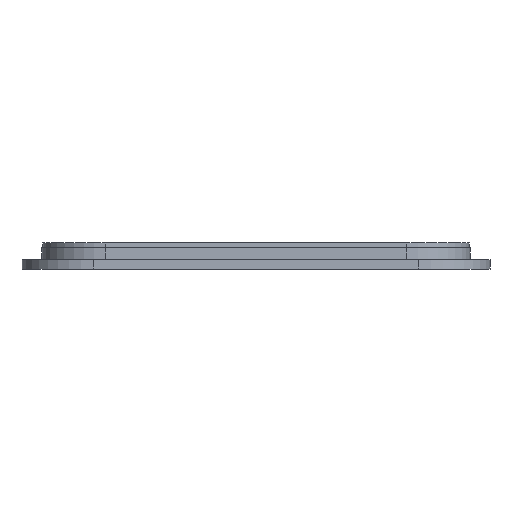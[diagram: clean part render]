
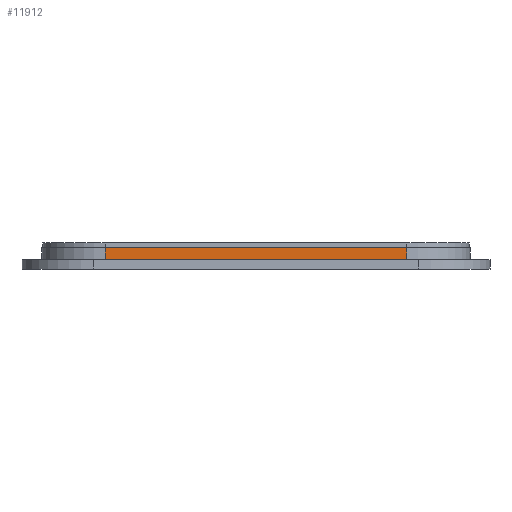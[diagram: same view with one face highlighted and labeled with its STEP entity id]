
A CAD part, front view. The second image highlights one B-rep face of the part: STEP entity #11912.
In plain terms, the highlighted planar face has unit normal (0, -1, 0).
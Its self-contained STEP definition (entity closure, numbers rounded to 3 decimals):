
#112 = PLANE('',#113);
#113 = AXIS2_PLACEMENT_3D('',#114,#115,#116);
#114 = CARTESIAN_POINT('',(-27.,-10.,13.));
#115 = DIRECTION('',(0.,0.,1.));
#116 = DIRECTION('',(1.,0.,-0.));
#140 = CYLINDRICAL_SURFACE('',#141,8.);
#141 = AXIS2_PLACEMENT_3D('',#142,#143,#144);
#142 = CARTESIAN_POINT('',(-19.,-2.,11.5));
#143 = DIRECTION('',(0.,0.,1.));
#144 = DIRECTION('',(-1.,-0.,0.));
#168 = PLANE('',#169);
#169 = AXIS2_PLACEMENT_3D('',#170,#171,#172);
#170 = CARTESIAN_POINT('',(-29.5,-12.5,11.5));
#171 = DIRECTION('',(0.,0.,1.));
#172 = DIRECTION('',(1.,0.,-0.));
#211 = VERTEX_POINT('',#212);
#212 = CARTESIAN_POINT('',(-19.,-10.,13.));
#234 = EDGE_CURVE('',#211,#235,#237,.T.);
#235 = VERTEX_POINT('',#236);
#236 = CARTESIAN_POINT('',(19.,-10.,13.));
#237 = SURFACE_CURVE('',#238,(#242,#249),.PCURVE_S1.);
#238 = LINE('',#239,#240);
#239 = CARTESIAN_POINT('',(-27.,-10.,13.));
#240 = VECTOR('',#241,1.);
#241 = DIRECTION('',(1.,0.,0.));
#242 = PCURVE('',#112,#243);
#243 = DEFINITIONAL_REPRESENTATION('',(#244),#248);
#244 = LINE('',#245,#246);
#245 = CARTESIAN_POINT('',(0.,0.));
#246 = VECTOR('',#247,1.);
#247 = DIRECTION('',(1.,0.));
#248 = ( GEOMETRIC_REPRESENTATION_CONTEXT(2) 
PARAMETRIC_REPRESENTATION_CONTEXT() REPRESENTATION_CONTEXT('2D SPACE',''
  ) );
#249 = PCURVE('',#250,#255);
#250 = PLANE('',#251);
#251 = AXIS2_PLACEMENT_3D('',#252,#253,#254);
#252 = CARTESIAN_POINT('',(-27.,-10.,11.5));
#253 = DIRECTION('',(0.,1.,0.));
#254 = DIRECTION('',(0.,-0.,1.));
#255 = DEFINITIONAL_REPRESENTATION('',(#256),#260);
#256 = LINE('',#257,#258);
#257 = CARTESIAN_POINT('',(1.5,0.));
#258 = VECTOR('',#259,1.);
#259 = DIRECTION('',(0.,1.));
#260 = ( GEOMETRIC_REPRESENTATION_CONTEXT(2) 
PARAMETRIC_REPRESENTATION_CONTEXT() REPRESENTATION_CONTEXT('2D SPACE',''
  ) );
#283 = CYLINDRICAL_SURFACE('',#284,8.);
#284 = AXIS2_PLACEMENT_3D('',#285,#286,#287);
#285 = CARTESIAN_POINT('',(19.,-2.,11.5));
#286 = DIRECTION('',(0.,0.,1.));
#287 = DIRECTION('',(1.,0.,-0.));
#11450 = VERTEX_POINT('',#11451);
#11451 = CARTESIAN_POINT('',(-19.,-10.,11.5));
#11473 = EDGE_CURVE('',#11450,#211,#11474,.T.);
#11474 = SURFACE_CURVE('',#11475,(#11479,#11486),.PCURVE_S1.);
#11475 = LINE('',#11476,#11477);
#11476 = CARTESIAN_POINT('',(-19.,-10.,11.5));
#11477 = VECTOR('',#11478,1.);
#11478 = DIRECTION('',(0.,0.,1.));
#11479 = PCURVE('',#140,#11480);
#11480 = DEFINITIONAL_REPRESENTATION('',(#11481),#11485);
#11481 = LINE('',#11482,#11483);
#11482 = CARTESIAN_POINT('',(1.571,0.));
#11483 = VECTOR('',#11484,1.);
#11484 = DIRECTION('',(0.,1.));
#11485 = ( GEOMETRIC_REPRESENTATION_CONTEXT(2) 
PARAMETRIC_REPRESENTATION_CONTEXT() REPRESENTATION_CONTEXT('2D SPACE',''
  ) );
#11486 = PCURVE('',#250,#11487);
#11487 = DEFINITIONAL_REPRESENTATION('',(#11488),#11492);
#11488 = LINE('',#11489,#11490);
#11489 = CARTESIAN_POINT('',(0.,8.));
#11490 = VECTOR('',#11491,1.);
#11491 = DIRECTION('',(1.,0.));
#11492 = ( GEOMETRIC_REPRESENTATION_CONTEXT(2) 
PARAMETRIC_REPRESENTATION_CONTEXT() REPRESENTATION_CONTEXT('2D SPACE',''
  ) );
#11865 = VERTEX_POINT('',#11866);
#11866 = CARTESIAN_POINT('',(19.,-10.,11.5));
#11892 = EDGE_CURVE('',#11450,#11865,#11893,.T.);
#11893 = SURFACE_CURVE('',#11894,(#11898,#11905),.PCURVE_S1.);
#11894 = LINE('',#11895,#11896);
#11895 = CARTESIAN_POINT('',(-27.,-10.,11.5));
#11896 = VECTOR('',#11897,1.);
#11897 = DIRECTION('',(1.,0.,0.));
#11898 = PCURVE('',#168,#11899);
#11899 = DEFINITIONAL_REPRESENTATION('',(#11900),#11904);
#11900 = LINE('',#11901,#11902);
#11901 = CARTESIAN_POINT('',(2.5,2.5));
#11902 = VECTOR('',#11903,1.);
#11903 = DIRECTION('',(1.,0.));
#11904 = ( GEOMETRIC_REPRESENTATION_CONTEXT(2) 
PARAMETRIC_REPRESENTATION_CONTEXT() REPRESENTATION_CONTEXT('2D SPACE',''
  ) );
#11905 = PCURVE('',#250,#11906);
#11906 = DEFINITIONAL_REPRESENTATION('',(#11907),#11911);
#11907 = LINE('',#11908,#11909);
#11908 = CARTESIAN_POINT('',(0.,0.));
#11909 = VECTOR('',#11910,1.);
#11910 = DIRECTION('',(0.,1.));
#11911 = ( GEOMETRIC_REPRESENTATION_CONTEXT(2) 
PARAMETRIC_REPRESENTATION_CONTEXT() REPRESENTATION_CONTEXT('2D SPACE',''
  ) );
#11912 = ADVANCED_FACE('',(#11913),#250,.F.);
#11913 = FACE_BOUND('',#11914,.F.);
#11914 = EDGE_LOOP('',(#11915,#11916,#11917,#11918));
#11915 = ORIENTED_EDGE('',*,*,#11892,.F.);
#11916 = ORIENTED_EDGE('',*,*,#11473,.T.);
#11917 = ORIENTED_EDGE('',*,*,#234,.T.);
#11918 = ORIENTED_EDGE('',*,*,#11919,.F.);
#11919 = EDGE_CURVE('',#11865,#235,#11920,.T.);
#11920 = SURFACE_CURVE('',#11921,(#11925,#11932),.PCURVE_S1.);
#11921 = LINE('',#11922,#11923);
#11922 = CARTESIAN_POINT('',(19.,-10.,11.5));
#11923 = VECTOR('',#11924,1.);
#11924 = DIRECTION('',(0.,0.,1.));
#11925 = PCURVE('',#250,#11926);
#11926 = DEFINITIONAL_REPRESENTATION('',(#11927),#11931);
#11927 = LINE('',#11928,#11929);
#11928 = CARTESIAN_POINT('',(0.,46.));
#11929 = VECTOR('',#11930,1.);
#11930 = DIRECTION('',(1.,0.));
#11931 = ( GEOMETRIC_REPRESENTATION_CONTEXT(2) 
PARAMETRIC_REPRESENTATION_CONTEXT() REPRESENTATION_CONTEXT('2D SPACE',''
  ) );
#11932 = PCURVE('',#283,#11933);
#11933 = DEFINITIONAL_REPRESENTATION('',(#11934),#11938);
#11934 = LINE('',#11935,#11936);
#11935 = CARTESIAN_POINT('',(4.712,0.));
#11936 = VECTOR('',#11937,1.);
#11937 = DIRECTION('',(-0.,1.));
#11938 = ( GEOMETRIC_REPRESENTATION_CONTEXT(2) 
PARAMETRIC_REPRESENTATION_CONTEXT() REPRESENTATION_CONTEXT('2D SPACE',''
  ) );
